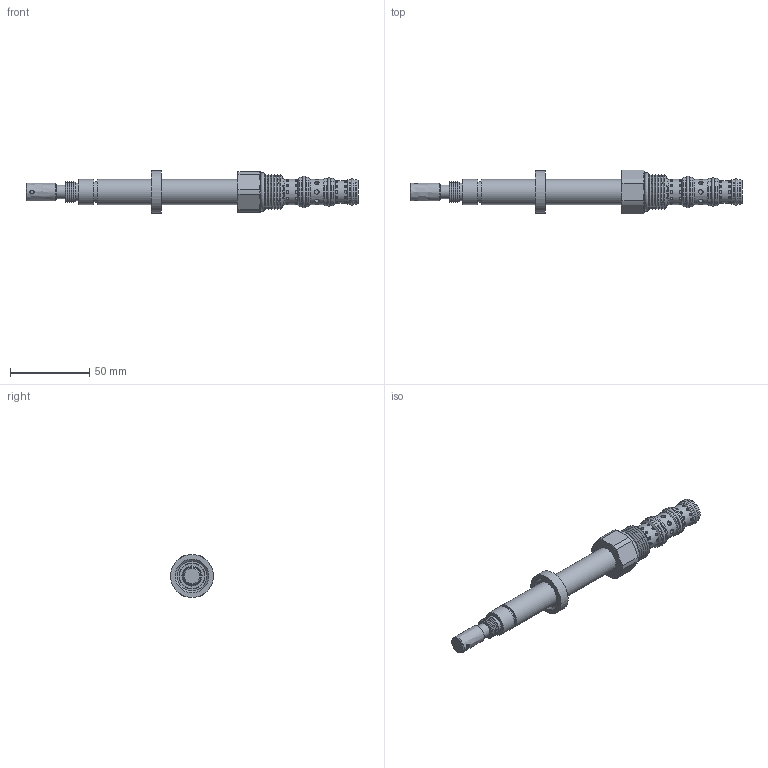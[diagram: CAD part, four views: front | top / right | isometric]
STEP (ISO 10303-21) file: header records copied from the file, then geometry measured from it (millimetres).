
FILE_DESCRIPTION((''),'2;1');
FILE_NAME('U:\sat files\DGS4O0P.stp','2009-09-09T08:58:18',('Dan'),(''),'Autodesk Inventor 2009','Autodesk Inventor 2009','');
FILE_SCHEMA(('AUTOMOTIVE_DESIGN { 1 0 10303 214 1 1 1 1 }'));
Length unit declared in the file: inch
Products named in the file (15): DGS4O0P; DGS4O0P1; DGS4O0P2; DGS4O0P3; DGS4O0P4; DGS4O0P5; DGS4O0P6; DGS4O0P7; DGS4O0P8; DGS4O0P9; DGS4O0P10; DGS4O0P11; DGS4O0P12; DGS4O0P13; DGS4O0P14
Assembly tree (14 placements, depth 2):
  DGS4O0P
    DGS4O0P1
    DGS4O0P2
    DGS4O0P3
    DGS4O0P4
    DGS4O0P5
    DGS4O0P6
    DGS4O0P7
    DGS4O0P8
    DGS4O0P9
    DGS4O0P10
    DGS4O0P11
    DGS4O0P12
    DGS4O0P13
    DGS4O0P14
Bounding box: 209.78 x 27.77 x 26.97 mm (x, y, z)
Volume: 45139.9 mm3; surface area: 19383.4 mm2
Topology: 14 solids, 14 shells, 322 faces, 640 edges, 408 vertices
Faces by surface type: cylinder 99, plane 98, bspline 63, cone 58, torus 4
Full cylindrical faces by diameter (mm): 1.6 x48, 2.794 x8, 6.756 x1, 8.738 x1, 8.793 x1, 11.11 x1, 11.176 x1, 11.913 x1, 12.827 x1, 12.992 x1, 13.043 x2, 14.288 x1, 14.592 x1, 14.643 x2, 15.723 x2, 15.735 x2, 15.875 x4, 16.167 x1, 16.218 x2, 16.256 x1, 17.323 x3, 17.335 x2, 18.898 x2, 18.91 x2, 19.624 x1, 26.975 x1
Entity records: 10001 total; most frequent: CARTESIAN_POINT 4118, DIRECTION 1164, ORIENTED_EDGE 788, EDGE_LOOP 612, AXIS2_PLACEMENT_3D 564, EDGE_CURVE 394, VERTEX_POINT 342, FACE_OUTER_BOUND 322
